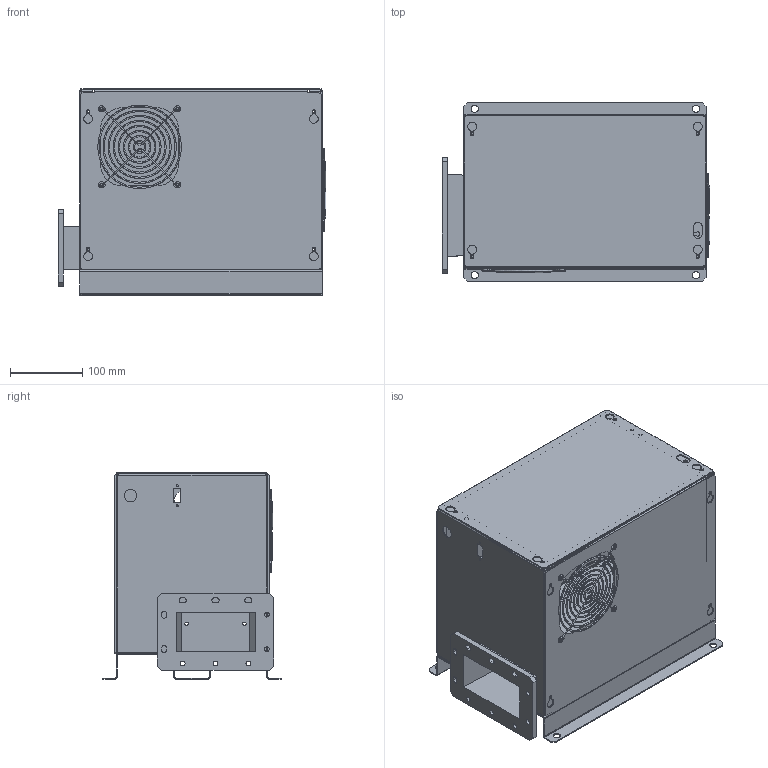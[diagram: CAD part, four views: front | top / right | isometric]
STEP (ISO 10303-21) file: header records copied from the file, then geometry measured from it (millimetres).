
FILE_DESCRIPTION(('FreeCAD Model'),'2;1');
FILE_NAME('Open CASCADE Shape Model','2021-04-02T12:05:24',('Author'),( ''),'Open CASCADE STEP processor 7.4','FreeCAD','Unknown');
FILE_SCHEMA(('AUTOMOTIVE_DESIGN { 1 0 10303 214 1 1 1 1 }'));
Length unit declared in the file: millimetre
Products named in the file (10): ASSY_MH_17CJ_A; BH37104C_PLATE-COVER-A_001; BH37105B-G01_PLATE-COVER-B_001; BH37106C-001_PLATE-COVER-C_001; BH37107B-G01_PLATE-FRONT_001; BH37108D-G01_PLATE-REAR_001; BH37109D-G01_CHANL-MOUNT-A_001; BH39083A_001; FG-12UL-G011_001; FG-12UL-G011_002
Assembly tree (9 placements, depth 2):
  ASSY_MH_17CJ_A
    BH37104C_PLATE-COVER-A_001
    BH37105B-G01_PLATE-COVER-B_001
    BH37106C-001_PLATE-COVER-C_001
    BH37107B-G01_PLATE-FRONT_001
    BH37108D-G01_PLATE-REAR_001
    BH37109D-G01_CHANL-MOUNT-A_001
    BH39083A_001
    FG-12UL-G011_001
    FG-12UL-G011_002
Bounding box: 370.24 x 247 x 285 mm (x, y, z)
Volume: 1061182.7 mm3; surface area: 1316451.3 mm2
Topology: 37 solids, 57 shells, 1072 faces, 2397 edges, 1400 vertices
Faces by surface type: plane 511, cylinder 379, cone 114, revolution 52, torus 8, bspline 4, extrusion 4
Full cylindrical faces by diameter (mm): 1.8 x36, 3 x2, 3.2 x4, 3.3 x28, 3.6 x8, 4 x17, 4.8 x12, 4.9 x2, 5 x2, 5.38 x28, 5.4 x43, 5.8 x4, 6 x6, 6.2 x1, 6.6 x5, 6.625 x28, 7.87 x28, 8 x3, 10 x4, 12 x1, 17 x1, 35 x2, 42 x2
Entity records: 63506 total; most frequent: CARTESIAN_POINT 13403, DIRECTION 9751, VECTOR 5169, LINE 5165, ORIENTED_EDGE 4714, PCURVE 4714, DEFINITIONAL_REPRESENTATION 4714, EDGE_CURVE 2357
